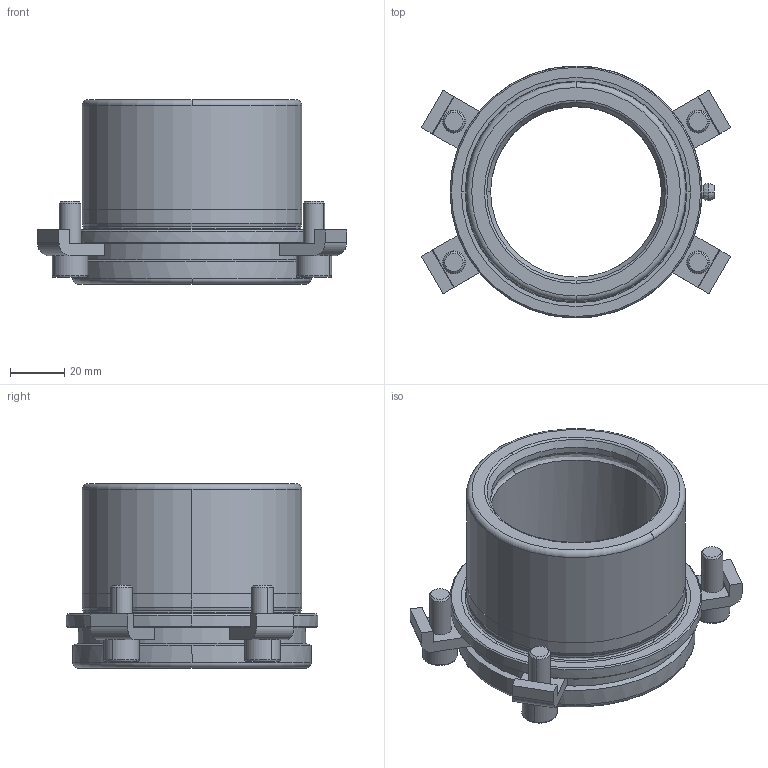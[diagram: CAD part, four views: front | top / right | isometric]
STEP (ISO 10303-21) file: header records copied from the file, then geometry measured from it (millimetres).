
FILE_DESCRIPTION((''),'2;1');
FILE_NAME('B10_063_020.stp','2008-11-06T09:15:32',(''),(''),'Mechanical Desktop 2009','Mechanical Desktop 2009',', , ');
FILE_SCHEMA(('CONFIG_CONTROL_DESIGN'));
Length unit declared in the file: millimetre
Products named in the file (2): Product; blmdl1
Assembly tree (1 placements, depth 2):
  Product
    blmdl1
Bounding box: 114.12 x 93 x 68 mm (x, y, z)
Volume: 167232.4 mm3; surface area: 48393.7 mm2
Topology: 10 solids, 10 shells, 202 faces, 510 edges, 337 vertices
Faces by surface type: plane 83, cylinder 61, cone 22, bspline 18, torus 18
Entity records: 7446 total; most frequent: CARTESIAN_POINT 2346, DIRECTION 1110, ORIENTED_EDGE 1012, EDGE_CURVE 506, AXIS2_PLACEMENT_3D 442, VERTEX_POINT 335, CIRCLE 256, VECTOR 226
